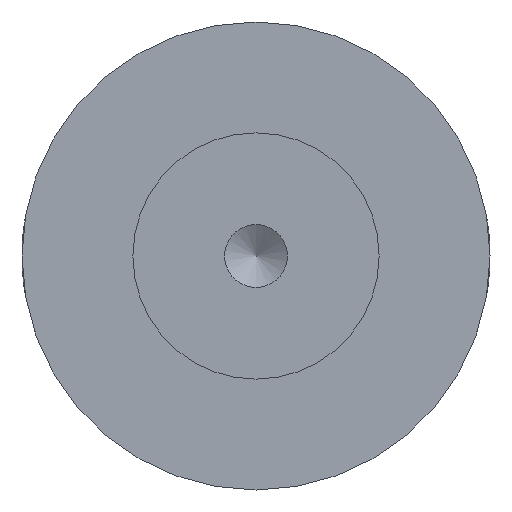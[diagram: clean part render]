
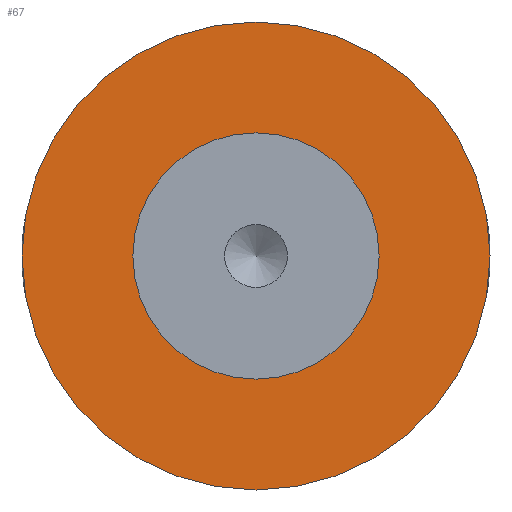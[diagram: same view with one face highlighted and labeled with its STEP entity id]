
A CAD part, front view. The second image highlights one B-rep face of the part: STEP entity #67.
In plain terms, the highlighted planar face has unit normal (0, -1, 0).
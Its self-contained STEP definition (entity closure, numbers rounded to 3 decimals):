
#31 = EDGE_CURVE ( 'NONE', #323, #323, #445, .T. ) ;
#32 = AXIS2_PLACEMENT_3D ( 'NONE', #98, #115, #278 ) ;
#34 = EDGE_CURVE ( 'NONE', #359, #359, #369, .T. ) ;
#55 = AXIS2_PLACEMENT_3D ( 'NONE', #160, #210, #102 ) ;
#61 = AXIS2_PLACEMENT_3D ( 'NONE', #198, #133, #226 ) ;
#67 = ADVANCED_FACE ( 'NONE', ( #427, #343 ), #135, .F. ) ;
#85 = CARTESIAN_POINT ( 'NONE',  ( 0., -300., 19. ) ) ;
#98 = CARTESIAN_POINT ( 'NONE',  ( 0., -300., 0. ) ) ;
#102 = DIRECTION ( 'NONE',  ( 0., 0., -1. ) ) ;
#115 = DIRECTION ( 'NONE',  ( 0., 1., 0. ) ) ;
#130 = CARTESIAN_POINT ( 'NONE',  ( 0., -300., -10. ) ) ;
#133 = DIRECTION ( 'NONE',  ( 0., 1., 0. ) ) ;
#135 = PLANE ( 'NONE',  #61 ) ;
#160 = CARTESIAN_POINT ( 'NONE',  ( 0., -300., 0. ) ) ;
#198 = CARTESIAN_POINT ( 'NONE',  ( 0., -300., 0. ) ) ;
#210 = DIRECTION ( 'NONE',  ( 0., -1., 0. ) ) ;
#226 = DIRECTION ( 'NONE',  ( 0., 0., 1. ) ) ;
#278 = DIRECTION ( 'NONE',  ( 0., 0., 1. ) ) ;
#319 = EDGE_LOOP ( 'NONE', ( #378 ) ) ;
#323 = VERTEX_POINT ( 'NONE', #85 ) ;
#326 = EDGE_LOOP ( 'NONE', ( #376 ) ) ;
#343 = FACE_OUTER_BOUND ( 'NONE', #319, .T. ) ;
#359 = VERTEX_POINT ( 'NONE', #130 ) ;
#369 = CIRCLE ( 'NONE', #55, 10. ) ;
#376 = ORIENTED_EDGE ( 'NONE', *, *, #34, .F. ) ;
#378 = ORIENTED_EDGE ( 'NONE', *, *, #31, .F. ) ;
#427 = FACE_BOUND ( 'NONE', #326, .T. ) ;
#445 = CIRCLE ( 'NONE', #32, 19. ) ;
